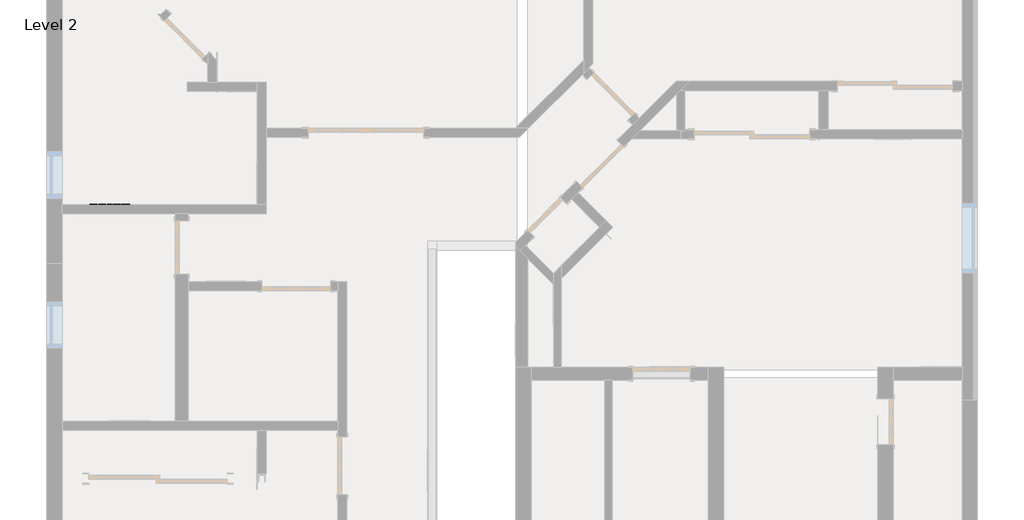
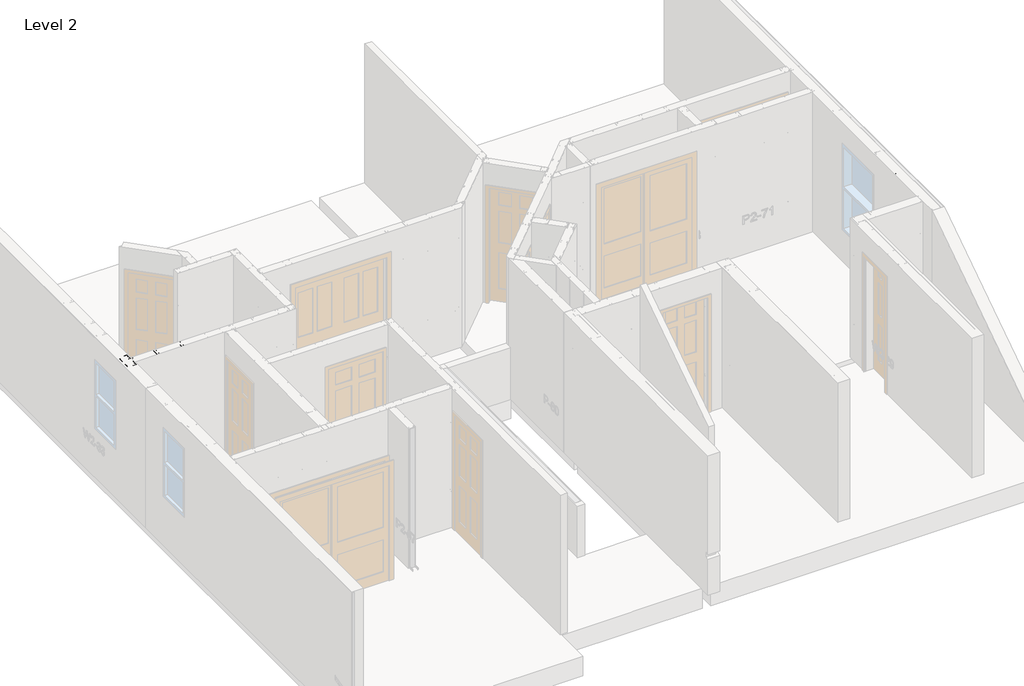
# One storey, part 24 of 46: 8 columns, 1 fastener.
"""IFC4 building model written with IfcOpenShell, lengths in millimetres."""

from ifc_helpers import new_model, si_unit, point, frame, origin, place, context, project, spatial, circle_curve, ellipse_curve, trimmed, transform, mapped, element, save
from ifc_brep_helpers import plane_surface, extruded_surface, advanced_brep
from components import column_550nf150_43_e978d052, panellabel_082cf68f

model = new_model("IFC4")

# Units and contexts
model_context = context("Model", 3, world=origin())
ifc_project = project(units=[si_unit("LENGTHUNIT", "METRE", prefix="MILLI")], contexts=[model_context])

# Site, building, storey
site = spatial("IfcSite", under=ifc_project)
building = spatial("IfcBuilding", under=site)
storey = spatial("IfcBuildingStorey", under=building, Name="Level 2", Elevation=3060.7)

# Columns
placement = place(None, origin())
element("IfcColumn", 1, ObjectType="BIMSF-SSMA-S-Column : 350NF150-33", at=placement, inside=storey, context=model_context, shape_type="AdvancedBrep", body=[
    advanced_brep(
    [(-15124.2413349, 8582.152221, 3061.5929687), (-15124.2413349, 8671.052221, 3061.5929687), (-15086.1413349, 8671.052221, 3061.5929687), (-15086.1413349, 8665.3947052, 3061.5929687), (-15087.0236507, 8665.3947052, 3061.5929687), (-15087.0236507, 8670.1699052, 3061.5929687), (-15123.3590191, 8670.1699052, 3061.5929687), (-15123.3590191, 8583.0345367, 3061.5929687), (-15087.0236507, 8583.0345367, 3061.5929687), (-15087.0236507, 8587.8097367, 3061.5929687), (-15086.1413349, 8587.8097367, 3061.5929687), (-15086.1413349, 8582.152221, 3061.5929687), (-15124.2413349, 8582.152221, 5523.6070313), (-15124.2413349, 8671.052221, 5523.6070313), (-15124.2413349, 8639.302221, 3671.1929688), (-15124.2413349, 8613.902221, 3671.1929688), (-15124.2413349, 8639.302221, 4890.3929687), (-15124.2413349, 8613.902221, 4890.3929687), (-15086.1413349, 8671.052221, 5523.6070313), (-15086.1413349, 8665.3947052, 5523.6070313), (-15087.0236507, 8665.3947052, 5523.6070313), (-15087.0236507, 8670.1699052, 5523.6070313), (-15123.3590191, 8670.1699052, 5523.6070313), (-15123.3590191, 8583.0345367, 5523.6070313), (-15123.3590191, 8613.902221, 3671.1929688), (-15123.3590191, 8639.302221, 3671.1929688), (-15123.3590191, 8613.902221, 4890.3929687), (-15123.3590191, 8639.302221, 4890.3929687), (-15087.0236507, 8583.0345367, 5523.6070313), (-15087.0236507, 8587.8097367, 5523.6070313), (-15086.1413349, 8587.8097367, 5523.6070313), (-15086.1413349, 8582.152221, 5523.6070313)],
    [
        (0, 1),
        (1, 2),
        (2, 3),
        (3, 4),
        (4, 5),
        (5, 6),
        (6, 7),
        (7, 8),
        (8, 9),
        (9, 10),
        (10, 11),
        (11, 0),
        (0, 12),
        (12, 13),
        (13, 1),
        (14, 15, circle_curve(frame((-15124.2413349, 8626.602221, 3671.1929687), z_axis=(1.0, 0.0, 0.0), x_axis=(0.0, 1.0, 0.0)), 12.7)),
        (15, 14, circle_curve(frame((-15124.2413349, 8626.602221, 3671.1929687), z_axis=(1.0, 0.0, 0.0), x_axis=(0.0, 1.0, 0.0)), 12.7)),
        (16, 17, circle_curve(frame((-15124.2413349, 8626.602221, 4890.3929687), z_axis=(1.0, 0.0, 0.0), x_axis=(0.0, 1.0, 0.0)), 12.7)),
        (17, 16, circle_curve(frame((-15124.2413349, 8626.602221, 4890.3929687), z_axis=(1.0, 0.0, 0.0), x_axis=(0.0, 1.0, 0.0)), 12.7)),
        (13, 18),
        (18, 2),
        (18, 19),
        (19, 3),
        (19, 20),
        (20, 4),
        (20, 21),
        (21, 5),
        (21, 22),
        (22, 6),
        (22, 23),
        (23, 7),
        (24, 25, circle_curve(frame((-15123.3590191, 8626.602221, 3671.1929688), z_axis=(-1.0, 0.0, 0.0), x_axis=(0.0, 1.0, 0.0)), 12.7)),
        (25, 24, circle_curve(frame((-15123.3590191, 8626.602221, 3671.1929688), z_axis=(-1.0, 0.0, 0.0), x_axis=(0.0, 1.0, 0.0)), 12.7)),
        (26, 27, circle_curve(frame((-15123.3590191, 8626.602221, 4890.3929687), z_axis=(-1.0, 0.0, 0.0), x_axis=(0.0, 1.0, 0.0)), 12.7)),
        (27, 26, circle_curve(frame((-15123.3590191, 8626.602221, 4890.3929687), z_axis=(-1.0, 0.0, 0.0), x_axis=(0.0, 1.0, 0.0)), 12.7)),
        (23, 28),
        (28, 8),
        (28, 29),
        (29, 9),
        (29, 30),
        (30, 10),
        (30, 31),
        (31, 11),
        (31, 12),
        (24, 15),
        (14, 25),
        (26, 17),
        (16, 27),
    ],
    [
        plane_surface(frame((-15124.2413349, 8582.152221, 3061.5929687), z_axis=(0.0, 0.0, -1.0), x_axis=(-1.0, 0.0, 0.0))),
        plane_surface(frame((-15124.2413349, 8671.052221, 5523.6070313), z_axis=(-1.0, 0.0, 0.0), x_axis=(0.0, 0.0, -1.0))),
        plane_surface(frame((-15086.1413349, 8671.052221, 5523.6070313), z_axis=(0.0, 1.0, 0.0), x_axis=(0.0, 0.0, -1.0))),
        plane_surface(frame((-15086.1413349, 8665.3947052, 5523.6070313), z_axis=(1.0, 0.0, 0.0), x_axis=(0.0, 0.0, -1.0))),
        plane_surface(frame((-15087.0236507, 8665.3947052, 5523.6070313), z_axis=(0.0, -1.0, 0.0), x_axis=(0.0, 0.0, -1.0))),
        plane_surface(frame((-15087.0236507, 8670.1699052, 5523.6070313), z_axis=(-1.0, 0.0, 0.0), x_axis=(0.0, 0.0, -1.0))),
        plane_surface(frame((-15123.3590191, 8670.1699052, 5523.6070313), z_axis=(0.0, -1.0, 0.0), x_axis=(0.0, 0.0, -1.0))),
        plane_surface(frame((-15123.3590191, 8583.0345367, 5523.6070313), z_axis=(1.0, 0.0, 0.0), x_axis=(0.0, 0.0, -1.0))),
        plane_surface(frame((-15087.0236507, 8583.0345367, 5523.6070313), z_axis=(0.0, 1.0, 0.0), x_axis=(0.0, 0.0, -1.0))),
        plane_surface(frame((-15087.0236507, 8587.8097367, 5523.6070313), z_axis=(-1.0, 0.0, 0.0), x_axis=(0.0, 0.0, -1.0))),
        plane_surface(frame((-15086.1413349, 8587.8097367, 5523.6070313), z_axis=(0.0, 1.0, 0.0), x_axis=(0.0, 0.0, -1.0))),
        plane_surface(frame((-15086.1413349, 8582.152221, 5523.6070313), z_axis=(1.0, 0.0, 0.0), x_axis=(0.0, 0.0, -1.0))),
        plane_surface(frame((-15124.2413349, 8582.152221, 5523.6070313), z_axis=(0.0, -1.0, 0.0), x_axis=(0.0, 0.0, -1.0))),
        plane_surface(frame((-15124.2413349, 8582.152221, 5523.6070313), z_axis=(0.0, 0.0, 1.0), x_axis=(1.0, 0.0, 0.0))),
        extruded_surface(trimmed(ellipse_curve(frame((-12643.1772724, 8626.602221, 3671.1929688), z_axis=(-1.0, 0.0, 0.0), x_axis=(0.0, 1.0, 0.0)), 12.7, 12.7), [point((-12643.1772724, 8613.902221, 3671.1929688))], [point((-12643.1772724, 8639.302221, 3671.1929688))], True, "CARTESIAN"), (4924.028125, 0.0, 0.0), 4924.028125),
        extruded_surface(trimmed(ellipse_curve(frame((-12643.1772724, 8626.602221, 3671.1929688), z_axis=(-1.0, 0.0, 0.0), x_axis=(0.0, 1.0, 0.0)), 12.7, 12.7), [point((-12643.1772724, 8639.302221, 3671.1929688))], [point((-12643.1772724, 8613.902221, 3671.1929688))], True, "CARTESIAN"), (4924.028125, 0.0, 0.0), 4924.028125),
        extruded_surface(trimmed(ellipse_curve(frame((-12643.1772724, 8626.602221, 4890.3929687), z_axis=(-1.0, 0.0, 0.0), x_axis=(0.0, 1.0, 0.0)), 12.7, 12.7), [point((-12643.1772724, 8613.902221, 4890.3929687))], [point((-12643.1772724, 8639.302221, 4890.3929687))], True, "CARTESIAN"), (4924.028125, 0.0, 0.0), 4924.028125),
        extruded_surface(trimmed(ellipse_curve(frame((-12643.1772724, 8626.602221, 4890.3929687), z_axis=(-1.0, 0.0, 0.0), x_axis=(0.0, 1.0, 0.0)), 12.7, 12.7), [point((-12643.1772724, 8639.302221, 4890.3929687))], [point((-12643.1772724, 8613.902221, 4890.3929687))], True, "CARTESIAN"), (4924.028125, 0.0, 0.0), 4924.028125),
    ],
    [
        (0, [[1, 2, 3, 4, 5, 6, 7, 8, 9, 10, 11, 12]]),
        (1, [[-1, 13, 14, 15], [16, 17], [18, 19]]),
        (2, [[-2, -15, 20, 21]]),
        (3, [[-3, -21, 22, 23]]),
        (4, [[-4, -23, 24, 25]]),
        (5, [[-5, -25, 26, 27]]),
        (6, [[-6, -27, 28, 29]]),
        (7, [[-7, -29, 30, 31], [32, 33], [34, 35]]),
        (8, [[-8, -31, 36, 37]]),
        (9, [[-9, -37, 38, 39]]),
        (10, [[-10, -39, 40, 41]]),
        (11, [[-11, -41, 42, 43]]),
        (12, [[-12, -43, 44, -13]]),
        (13, [[-14, -44, -42, -40, -38, -36, -30, -28, -26, -24, -22, -20]]),
        (14, [[45, -16, 46, -32]]),
        (15, [[-45, -33, -46, -17]]),
        (16, [[47, -18, 48, -34]]),
        (17, [[-47, -35, -48, -19]]),
    ],
),
])
element("IfcColumn", 2, ObjectType="BIMSF-SSMA-S-Column : 350NF150-33", at=placement, inside=storey, context=model_context, shape_type="AdvancedBrep", body=[
    advanced_brep(
    [(-14736.8913349, 8582.152221, 3061.5929687), (-14736.8913349, 8671.052221, 3061.5929687), (-14698.7913349, 8671.052221, 3061.5929687), (-14698.7913349, 8665.3947052, 3061.5929687), (-14699.6736507, 8665.3947052, 3061.5929687), (-14699.6736507, 8670.1699052, 3061.5929687), (-14736.0090191, 8670.1699052, 3061.5929687), (-14736.0090191, 8583.0345367, 3061.5929687), (-14699.6736507, 8583.0345367, 3061.5929687), (-14699.6736507, 8587.8097367, 3061.5929687), (-14698.7913349, 8587.8097367, 3061.5929687), (-14698.7913349, 8582.152221, 3061.5929687), (-14736.8913349, 8582.152221, 5523.6070313), (-14736.8913349, 8671.052221, 5523.6070313), (-14736.8913349, 8639.302221, 3671.1929688), (-14736.8913349, 8613.902221, 3671.1929688), (-14736.8913349, 8639.302221, 4890.3929687), (-14736.8913349, 8613.902221, 4890.3929687), (-14698.7913349, 8671.052221, 5523.6070313), (-14698.7913349, 8665.3947052, 5523.6070313), (-14699.6736507, 8665.3947052, 5523.6070313), (-14699.6736507, 8670.1699052, 5523.6070313), (-14736.0090191, 8670.1699052, 5523.6070313), (-14736.0090191, 8583.0345367, 5523.6070313), (-14736.0090191, 8613.902221, 3671.1929688), (-14736.0090191, 8639.302221, 3671.1929688), (-14736.0090191, 8613.902221, 4890.3929687), (-14736.0090191, 8639.302221, 4890.3929687), (-14699.6736507, 8583.0345367, 5523.6070313), (-14699.6736507, 8587.8097367, 5523.6070313), (-14698.7913349, 8587.8097367, 5523.6070313), (-14698.7913349, 8582.152221, 5523.6070313)],
    [
        (0, 1),
        (1, 2),
        (2, 3),
        (3, 4),
        (4, 5),
        (5, 6),
        (6, 7),
        (7, 8),
        (8, 9),
        (9, 10),
        (10, 11),
        (11, 0),
        (0, 12),
        (12, 13),
        (13, 1),
        (14, 15, circle_curve(frame((-14736.8913349, 8626.602221, 3671.1929688), z_axis=(1.0, 0.0, 0.0), x_axis=(0.0, 1.0, 0.0)), 12.7)),
        (15, 14, circle_curve(frame((-14736.8913349, 8626.602221, 3671.1929688), z_axis=(1.0, 0.0, 0.0), x_axis=(0.0, 1.0, 0.0)), 12.7)),
        (16, 17, circle_curve(frame((-14736.8913349, 8626.602221, 4890.3929687), z_axis=(1.0, 0.0, 0.0), x_axis=(0.0, 1.0, 0.0)), 12.7)),
        (17, 16, circle_curve(frame((-14736.8913349, 8626.602221, 4890.3929687), z_axis=(1.0, 0.0, 0.0), x_axis=(0.0, 1.0, 0.0)), 12.7)),
        (13, 18),
        (18, 2),
        (18, 19),
        (19, 3),
        (19, 20),
        (20, 4),
        (20, 21),
        (21, 5),
        (21, 22),
        (22, 6),
        (22, 23),
        (23, 7),
        (24, 25, circle_curve(frame((-14736.0090191, 8626.602221, 3671.1929688), z_axis=(-1.0, 0.0, 0.0), x_axis=(0.0, 1.0, 0.0)), 12.7)),
        (25, 24, circle_curve(frame((-14736.0090191, 8626.602221, 3671.1929688), z_axis=(-1.0, 0.0, 0.0), x_axis=(0.0, 1.0, 0.0)), 12.7)),
        (26, 27, circle_curve(frame((-14736.0090191, 8626.602221, 4890.3929687), z_axis=(-1.0, 0.0, 0.0), x_axis=(0.0, 1.0, 0.0)), 12.7)),
        (27, 26, circle_curve(frame((-14736.0090191, 8626.602221, 4890.3929687), z_axis=(-1.0, 0.0, 0.0), x_axis=(0.0, 1.0, 0.0)), 12.7)),
        (23, 28),
        (28, 8),
        (28, 29),
        (29, 9),
        (29, 30),
        (30, 10),
        (30, 31),
        (31, 11),
        (31, 12),
        (24, 15),
        (14, 25),
        (26, 17),
        (16, 27),
    ],
    [
        plane_surface(frame((-14736.8913349, 8582.152221, 3061.5929687), z_axis=(0.0, 0.0, -1.0), x_axis=(-1.0, 0.0, 0.0))),
        plane_surface(frame((-14736.8913349, 8671.052221, 5523.6070313), z_axis=(-1.0, 0.0, 0.0), x_axis=(0.0, 0.0, -1.0))),
        plane_surface(frame((-14698.7913349, 8671.052221, 5523.6070313), z_axis=(0.0, 1.0, 0.0), x_axis=(0.0, 0.0, -1.0))),
        plane_surface(frame((-14698.7913349, 8665.3947052, 5523.6070313), z_axis=(1.0, 0.0, 0.0), x_axis=(0.0, 0.0, -1.0))),
        plane_surface(frame((-14699.6736507, 8665.3947052, 5523.6070313), z_axis=(0.0, -1.0, 0.0), x_axis=(0.0, 0.0, -1.0))),
        plane_surface(frame((-14699.6736507, 8670.1699052, 5523.6070313), z_axis=(-1.0, 0.0, 0.0), x_axis=(0.0, 0.0, -1.0))),
        plane_surface(frame((-14736.0090191, 8670.1699052, 5523.6070313), z_axis=(0.0, -1.0, 0.0), x_axis=(0.0, 0.0, -1.0))),
        plane_surface(frame((-14736.0090191, 8583.0345367, 5523.6070313), z_axis=(1.0, 0.0, 0.0), x_axis=(0.0, 0.0, -1.0))),
        plane_surface(frame((-14699.6736507, 8583.0345367, 5523.6070313), z_axis=(0.0, 1.0, 0.0), x_axis=(0.0, 0.0, -1.0))),
        plane_surface(frame((-14699.6736507, 8587.8097367, 5523.6070313), z_axis=(-1.0, 0.0, 0.0), x_axis=(0.0, 0.0, -1.0))),
        plane_surface(frame((-14698.7913349, 8587.8097367, 5523.6070313), z_axis=(0.0, 1.0, 0.0), x_axis=(0.0, 0.0, -1.0))),
        plane_surface(frame((-14698.7913349, 8582.152221, 5523.6070313), z_axis=(1.0, 0.0, 0.0), x_axis=(0.0, 0.0, -1.0))),
        plane_surface(frame((-14736.8913349, 8582.152221, 5523.6070313), z_axis=(0.0, -1.0, 0.0), x_axis=(0.0, 0.0, -1.0))),
        plane_surface(frame((-14736.8913349, 8582.152221, 5523.6070313), z_axis=(0.0, 0.0, 1.0), x_axis=(1.0, 0.0, 0.0))),
        extruded_surface(trimmed(ellipse_curve(frame((-12255.8272724, 8626.602221, 3671.1929688), z_axis=(-1.0, 0.0, 0.0), x_axis=(0.0, 1.0, 0.0)), 12.7, 12.7), [point((-12255.8272724, 8613.902221, 3671.1929688))], [point((-12255.8272724, 8639.302221, 3671.1929688))], True, "CARTESIAN"), (4924.028125, 0.0, 0.0), 4924.028125),
        extruded_surface(trimmed(ellipse_curve(frame((-12255.8272724, 8626.602221, 3671.1929688), z_axis=(-1.0, 0.0, 0.0), x_axis=(0.0, 1.0, 0.0)), 12.7, 12.7), [point((-12255.8272724, 8639.302221, 3671.1929688))], [point((-12255.8272724, 8613.902221, 3671.1929688))], True, "CARTESIAN"), (4924.028125, 0.0, 0.0), 4924.028125),
        extruded_surface(trimmed(ellipse_curve(frame((-12255.8272724, 8626.602221, 4890.3929687), z_axis=(-1.0, 0.0, 0.0), x_axis=(0.0, 1.0, 0.0)), 12.7, 12.7), [point((-12255.8272724, 8613.902221, 4890.3929687))], [point((-12255.8272724, 8639.302221, 4890.3929687))], True, "CARTESIAN"), (4924.028125, 0.0, 0.0), 4924.028125),
        extruded_surface(trimmed(ellipse_curve(frame((-12255.8272724, 8626.602221, 4890.3929687), z_axis=(-1.0, 0.0, 0.0), x_axis=(0.0, 1.0, 0.0)), 12.7, 12.7), [point((-12255.8272724, 8639.302221, 4890.3929687))], [point((-12255.8272724, 8613.902221, 4890.3929687))], True, "CARTESIAN"), (4924.028125, 0.0, 0.0), 4924.028125),
    ],
    [
        (0, [[1, 2, 3, 4, 5, 6, 7, 8, 9, 10, 11, 12]]),
        (1, [[-1, 13, 14, 15], [16, 17], [18, 19]]),
        (2, [[-2, -15, 20, 21]]),
        (3, [[-3, -21, 22, 23]]),
        (4, [[-4, -23, 24, 25]]),
        (5, [[-5, -25, 26, 27]]),
        (6, [[-6, -27, 28, 29]]),
        (7, [[-7, -29, 30, 31], [32, 33], [34, 35]]),
        (8, [[-8, -31, 36, 37]]),
        (9, [[-9, -37, 38, 39]]),
        (10, [[-10, -39, 40, 41]]),
        (11, [[-11, -41, 42, 43]]),
        (12, [[-12, -43, 44, -13]]),
        (13, [[-14, -44, -42, -40, -38, -36, -30, -28, -26, -24, -22, -20]]),
        (14, [[45, -16, 46, -32]]),
        (15, [[-45, -33, -46, -17]]),
        (16, [[47, -18, 48, -34]]),
        (17, [[-47, -35, -48, -19]]),
    ],
),
])
element("IfcColumn", 3, ObjectType="BIMSF-SSMA-S-Column : 350NF150-33", at=placement, inside=storey, context=model_context, shape_type="AdvancedBrep", body=[
    advanced_brep(
    [(-14330.4913349, 8582.152221, 3061.5929687), (-14330.4913349, 8671.052221, 3061.5929687), (-14292.3913349, 8671.052221, 3061.5929687), (-14292.3913349, 8665.3947052, 3061.5929687), (-14293.2736507, 8665.3947052, 3061.5929687), (-14293.2736507, 8670.1699052, 3061.5929687), (-14329.6090191, 8670.1699052, 3061.5929687), (-14329.6090191, 8583.0345367, 3061.5929687), (-14293.2736507, 8583.0345367, 3061.5929687), (-14293.2736507, 8587.8097367, 3061.5929687), (-14292.3913349, 8587.8097367, 3061.5929687), (-14292.3913349, 8582.152221, 3061.5929687), (-14330.4913349, 8582.152221, 5523.6070313), (-14330.4913349, 8671.052221, 5523.6070313), (-14330.4913349, 8639.302221, 3671.1929688), (-14330.4913349, 8613.902221, 3671.1929688), (-14330.4913349, 8639.302221, 4890.3929687), (-14330.4913349, 8613.902221, 4890.3929687), (-14292.3913349, 8671.052221, 5523.6070313), (-14292.3913349, 8665.3947052, 5523.6070313), (-14293.2736507, 8665.3947052, 5523.6070313), (-14293.2736507, 8670.1699052, 5523.6070313), (-14329.6090191, 8670.1699052, 5523.6070313), (-14329.6090191, 8583.0345367, 5523.6070313), (-14329.6090191, 8613.902221, 3671.1929688), (-14329.6090191, 8639.302221, 3671.1929688), (-14329.6090191, 8613.902221, 4890.3929687), (-14329.6090191, 8639.302221, 4890.3929687), (-14293.2736507, 8583.0345367, 5523.6070313), (-14293.2736507, 8587.8097367, 5523.6070313), (-14292.3913349, 8587.8097367, 5523.6070313), (-14292.3913349, 8582.152221, 5523.6070313)],
    [
        (0, 1),
        (1, 2),
        (2, 3),
        (3, 4),
        (4, 5),
        (5, 6),
        (6, 7),
        (7, 8),
        (8, 9),
        (9, 10),
        (10, 11),
        (11, 0),
        (0, 12),
        (12, 13),
        (13, 1),
        (14, 15, circle_curve(frame((-14330.4913349, 8626.602221, 3671.1929688), z_axis=(1.0, 0.0, 0.0), x_axis=(0.0, 1.0, 0.0)), 12.7)),
        (15, 14, circle_curve(frame((-14330.4913349, 8626.602221, 3671.1929688), z_axis=(1.0, 0.0, 0.0), x_axis=(0.0, 1.0, 0.0)), 12.7)),
        (16, 17, circle_curve(frame((-14330.4913349, 8626.602221, 4890.3929687), z_axis=(1.0, 0.0, 0.0), x_axis=(0.0, 1.0, 0.0)), 12.7)),
        (17, 16, circle_curve(frame((-14330.4913349, 8626.602221, 4890.3929687), z_axis=(1.0, 0.0, 0.0), x_axis=(0.0, 1.0, 0.0)), 12.7)),
        (13, 18),
        (18, 2),
        (18, 19),
        (19, 3),
        (19, 20),
        (20, 4),
        (20, 21),
        (21, 5),
        (21, 22),
        (22, 6),
        (22, 23),
        (23, 7),
        (24, 25, circle_curve(frame((-14329.6090191, 8626.602221, 3671.1929688), z_axis=(-1.0, 0.0, 0.0), x_axis=(0.0, 1.0, 0.0)), 12.7)),
        (25, 24, circle_curve(frame((-14329.6090191, 8626.602221, 3671.1929688), z_axis=(-1.0, 0.0, 0.0), x_axis=(0.0, 1.0, 0.0)), 12.7)),
        (26, 27, circle_curve(frame((-14329.6090191, 8626.602221, 4890.3929687), z_axis=(-1.0, 0.0, 0.0), x_axis=(0.0, 1.0, 0.0)), 12.7)),
        (27, 26, circle_curve(frame((-14329.6090191, 8626.602221, 4890.3929687), z_axis=(-1.0, 0.0, 0.0), x_axis=(0.0, 1.0, 0.0)), 12.7)),
        (23, 28),
        (28, 8),
        (28, 29),
        (29, 9),
        (29, 30),
        (30, 10),
        (30, 31),
        (31, 11),
        (31, 12),
        (24, 15),
        (14, 25),
        (26, 17),
        (16, 27),
    ],
    [
        plane_surface(frame((-14330.4913349, 8582.152221, 3061.5929687), z_axis=(0.0, 0.0, -1.0), x_axis=(-1.0, 0.0, 0.0))),
        plane_surface(frame((-14330.4913349, 8671.052221, 5523.6070313), z_axis=(-1.0, 0.0, 0.0), x_axis=(0.0, 0.0, -1.0))),
        plane_surface(frame((-14292.3913349, 8671.052221, 5523.6070313), z_axis=(0.0, 1.0, 0.0), x_axis=(0.0, 0.0, -1.0))),
        plane_surface(frame((-14292.3913349, 8665.3947052, 5523.6070313), z_axis=(1.0, 0.0, 0.0), x_axis=(0.0, 0.0, -1.0))),
        plane_surface(frame((-14293.2736507, 8665.3947052, 5523.6070313), z_axis=(0.0, -1.0, 0.0), x_axis=(0.0, 0.0, -1.0))),
        plane_surface(frame((-14293.2736507, 8670.1699052, 5523.6070313), z_axis=(-1.0, 0.0, 0.0), x_axis=(0.0, 0.0, -1.0))),
        plane_surface(frame((-14329.6090191, 8670.1699052, 5523.6070313), z_axis=(0.0, -1.0, 0.0), x_axis=(0.0, 0.0, -1.0))),
        plane_surface(frame((-14329.6090191, 8583.0345367, 5523.6070313), z_axis=(1.0, 0.0, 0.0), x_axis=(0.0, 0.0, -1.0))),
        plane_surface(frame((-14293.2736507, 8583.0345367, 5523.6070313), z_axis=(0.0, 1.0, 0.0), x_axis=(0.0, 0.0, -1.0))),
        plane_surface(frame((-14293.2736507, 8587.8097367, 5523.6070313), z_axis=(-1.0, 0.0, 0.0), x_axis=(0.0, 0.0, -1.0))),
        plane_surface(frame((-14292.3913349, 8587.8097367, 5523.6070313), z_axis=(0.0, 1.0, 0.0), x_axis=(0.0, 0.0, -1.0))),
        plane_surface(frame((-14292.3913349, 8582.152221, 5523.6070313), z_axis=(1.0, 0.0, 0.0), x_axis=(0.0, 0.0, -1.0))),
        plane_surface(frame((-14330.4913349, 8582.152221, 5523.6070313), z_axis=(0.0, -1.0, 0.0), x_axis=(0.0, 0.0, -1.0))),
        plane_surface(frame((-14330.4913349, 8582.152221, 5523.6070313), z_axis=(0.0, 0.0, 1.0), x_axis=(1.0, 0.0, 0.0))),
        extruded_surface(trimmed(ellipse_curve(frame((-11849.4272724, 8626.602221, 3671.1929688), z_axis=(-1.0, 0.0, 0.0), x_axis=(0.0, 1.0, 0.0)), 12.7, 12.7), [point((-11849.4272724, 8613.902221, 3671.1929688))], [point((-11849.4272724, 8639.302221, 3671.1929688))], True, "CARTESIAN"), (4924.028125, 0.0, 0.0), 4924.028125),
        extruded_surface(trimmed(ellipse_curve(frame((-11849.4272724, 8626.602221, 3671.1929688), z_axis=(-1.0, 0.0, 0.0), x_axis=(0.0, 1.0, 0.0)), 12.7, 12.7), [point((-11849.4272724, 8639.302221, 3671.1929688))], [point((-11849.4272724, 8613.902221, 3671.1929688))], True, "CARTESIAN"), (4924.028125, 0.0, 0.0), 4924.028125),
        extruded_surface(trimmed(ellipse_curve(frame((-11849.4272724, 8626.602221, 4890.3929687), z_axis=(-1.0, 0.0, 0.0), x_axis=(0.0, 1.0, 0.0)), 12.7, 12.7), [point((-11849.4272724, 8613.902221, 4890.3929687))], [point((-11849.4272724, 8639.302221, 4890.3929687))], True, "CARTESIAN"), (4924.028125, 0.0, 0.0), 4924.028125),
        extruded_surface(trimmed(ellipse_curve(frame((-11849.4272724, 8626.602221, 4890.3929687), z_axis=(-1.0, 0.0, 0.0), x_axis=(0.0, 1.0, 0.0)), 12.7, 12.7), [point((-11849.4272724, 8639.302221, 4890.3929687))], [point((-11849.4272724, 8613.902221, 4890.3929687))], True, "CARTESIAN"), (4924.028125, 0.0, 0.0), 4924.028125),
    ],
    [
        (0, [[1, 2, 3, 4, 5, 6, 7, 8, 9, 10, 11, 12]]),
        (1, [[-1, 13, 14, 15], [16, 17], [18, 19]]),
        (2, [[-2, -15, 20, 21]]),
        (3, [[-3, -21, 22, 23]]),
        (4, [[-4, -23, 24, 25]]),
        (5, [[-5, -25, 26, 27]]),
        (6, [[-6, -27, 28, 29]]),
        (7, [[-7, -29, 30, 31], [32, 33], [34, 35]]),
        (8, [[-8, -31, 36, 37]]),
        (9, [[-9, -37, 38, 39]]),
        (10, [[-10, -39, 40, 41]]),
        (11, [[-11, -41, 42, 43]]),
        (12, [[-12, -43, 44, -13]]),
        (13, [[-14, -44, -42, -40, -38, -36, -30, -28, -26, -24, -22, -20]]),
        (14, [[45, -16, 46, -32]]),
        (15, [[-45, -33, -46, -17]]),
        (16, [[47, -18, 48, -34]]),
        (17, [[-47, -35, -48, -19]]),
    ],
),
])
element("IfcColumn", 4, ObjectType="BIMSF-SSMA-S-Column : 550NF150-43", at=placement, inside=storey, context=model_context, shape_type="AdvancedBrep", body=[
    advanced_brep(
    [(-3071.9413349, 7140.702221, 3061.5929687), (-3211.6413349, 7140.702221, 3061.5929687), (-3211.6413349, 7178.802221, 3061.5929687), (-3205.7164507, 7178.802221, 3061.5929687), (-3205.7164507, 7177.6525367, 3061.5929687), (-3210.4916507, 7177.6525367, 3061.5929687), (-3210.4916507, 7141.8519052, 3061.5929687), (-3073.0910191, 7141.8519052, 3061.5929687), (-3073.0910191, 7177.6525367, 3061.5929687), (-3077.8662191, 7177.6525367, 3061.5929687), (-3077.8662191, 7178.802221, 3061.5929687), (-3071.9413349, 7178.802221, 3061.5929687), (-3071.9413349, 7140.702221, 5523.6070313), (-3211.6413349, 7140.702221, 5523.6070313), (-3154.4913349, 7140.702221, 3671.1929687), (-3129.0913349, 7140.702221, 3671.1929687), (-3154.4913349, 7140.702221, 4890.3929687), (-3129.0913349, 7140.702221, 4890.3929687), (-3211.6413349, 7178.802221, 5523.6070313), (-3205.7164507, 7178.802221, 5523.6070313), (-3205.7164507, 7177.6525367, 5523.6070313), (-3210.4916507, 7177.6525367, 5523.6070313), (-3210.4916507, 7141.8519052, 5523.6070313), (-3073.0910191, 7141.8519052, 5523.6070313), (-3129.0913349, 7141.8519052, 3671.1929688), (-3154.4913349, 7141.8519052, 3671.1929688), (-3129.0913349, 7141.8519052, 4890.3929687), (-3154.4913349, 7141.8519052, 4890.3929687), (-3073.0910191, 7177.6525367, 5523.6070313), (-3077.8662191, 7177.6525367, 5523.6070313), (-3077.8662191, 7178.802221, 5523.6070313), (-3071.9413349, 7178.802221, 5523.6070313)],
    [
        (0, 1),
        (1, 2),
        (2, 3),
        (3, 4),
        (4, 5),
        (5, 6),
        (6, 7),
        (7, 8),
        (8, 9),
        (9, 10),
        (10, 11),
        (11, 0),
        (0, 12),
        (12, 13),
        (13, 1),
        (14, 15, circle_curve(frame((-3141.7913349, 7140.702221, 3671.1929688), z_axis=(0.0, 1.0, 0.0), x_axis=(-1.0, 0.0, 0.0)), 12.7)),
        (15, 14, circle_curve(frame((-3141.7913349, 7140.702221, 3671.1929688), z_axis=(0.0, 1.0, 0.0), x_axis=(-1.0, 0.0, 0.0)), 12.7)),
        (16, 17, circle_curve(frame((-3141.7913349, 7140.702221, 4890.3929687), z_axis=(0.0, 1.0, 0.0), x_axis=(-1.0, 0.0, 0.0)), 12.7)),
        (17, 16, circle_curve(frame((-3141.7913349, 7140.702221, 4890.3929687), z_axis=(0.0, 1.0, 0.0), x_axis=(-1.0, 0.0, 0.0)), 12.7)),
        (13, 18),
        (18, 2),
        (18, 19),
        (19, 3),
        (19, 20),
        (20, 4),
        (20, 21),
        (21, 5),
        (21, 22),
        (22, 6),
        (22, 23),
        (23, 7),
        (24, 25, circle_curve(frame((-3141.7913349, 7141.8519052, 3671.1929688), z_axis=(0.0, -1.0, 0.0), x_axis=(-1.0, 0.0, 0.0)), 12.7)),
        (25, 24, circle_curve(frame((-3141.7913349, 7141.8519052, 3671.1929688), z_axis=(0.0, -1.0, 0.0), x_axis=(-1.0, 0.0, 0.0)), 12.7)),
        (26, 27, circle_curve(frame((-3141.7913349, 7141.8519052, 4890.3929687), z_axis=(0.0, -1.0, 0.0), x_axis=(-1.0, 0.0, 0.0)), 12.7)),
        (27, 26, circle_curve(frame((-3141.7913349, 7141.8519052, 4890.3929687), z_axis=(0.0, -1.0, 0.0), x_axis=(-1.0, 0.0, 0.0)), 12.7)),
        (23, 28),
        (28, 8),
        (28, 29),
        (29, 9),
        (29, 30),
        (30, 10),
        (30, 31),
        (31, 11),
        (31, 12),
        (24, 15),
        (14, 25),
        (26, 17),
        (16, 27),
    ],
    [
        plane_surface(frame((-3071.9413349, 7140.702221, 3061.5929687), z_axis=(0.0, 0.0, -1.0), x_axis=(0.0, -1.0, 0.0))),
        plane_surface(frame((-3211.6413349, 7140.702221, 5523.6070313), z_axis=(0.0, -1.0, 0.0), x_axis=(0.0, 0.0, -1.0))),
        plane_surface(frame((-3211.6413349, 7178.802221, 5523.6070313), z_axis=(-1.0, 0.0, 0.0), x_axis=(0.0, 0.0, -1.0))),
        plane_surface(frame((-3205.7164507, 7178.802221, 5523.6070313), z_axis=(0.0, 1.0, 0.0), x_axis=(0.0, 0.0, -1.0))),
        plane_surface(frame((-3205.7164507, 7177.6525367, 5523.6070313), z_axis=(1.0, 0.0, 0.0), x_axis=(0.0, 0.0, -1.0))),
        plane_surface(frame((-3210.4916507, 7177.6525367, 5523.6070313), z_axis=(0.0, -1.0, 0.0), x_axis=(0.0, 0.0, -1.0))),
        plane_surface(frame((-3210.4916507, 7141.8519052, 5523.6070313), z_axis=(1.0, 0.0, 0.0), x_axis=(0.0, 0.0, -1.0))),
        plane_surface(frame((-3073.0910191, 7141.8519052, 5523.6070313), z_axis=(0.0, 1.0, 0.0), x_axis=(0.0, 0.0, -1.0))),
        plane_surface(frame((-3073.0910191, 7177.6525367, 5523.6070313), z_axis=(-1.0, 0.0, 0.0), x_axis=(0.0, 0.0, -1.0))),
        plane_surface(frame((-3077.8662191, 7177.6525367, 5523.6070313), z_axis=(0.0, -1.0, 0.0), x_axis=(0.0, 0.0, -1.0))),
        plane_surface(frame((-3077.8662191, 7178.802221, 5523.6070313), z_axis=(-1.0, 0.0, 0.0), x_axis=(0.0, 0.0, -1.0))),
        plane_surface(frame((-3071.9413349, 7178.802221, 5523.6070313), z_axis=(0.0, 1.0, 0.0), x_axis=(0.0, 0.0, -1.0))),
        plane_surface(frame((-3071.9413349, 7140.702221, 5523.6070313), z_axis=(1.0, 0.0, 0.0), x_axis=(0.0, 0.0, -1.0))),
        plane_surface(frame((-3071.9413349, 7140.702221, 5523.6070313), z_axis=(0.0, 0.0, 1.0), x_axis=(0.0, 1.0, 0.0))),
        extruded_surface(trimmed(ellipse_curve(frame((-3141.7913349, 9621.7662835, 3671.1929688), z_axis=(0.0, -1.0, 0.0), x_axis=(-1.0, 0.0, 0.0)), 12.7, 12.7), [point((-3129.0913349, 9621.7662835, 3671.1929688))], [point((-3154.4913349, 9621.7662835, 3671.1929688))], True, "CARTESIAN"), (0.0, 4924.028125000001, 0.0), 4924.028125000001),
        extruded_surface(trimmed(ellipse_curve(frame((-3141.7913349, 9621.7662835, 3671.1929688), z_axis=(0.0, -1.0, 0.0), x_axis=(-1.0, 0.0, 0.0)), 12.7, 12.7), [point((-3154.4913349, 9621.7662835, 3671.1929688))], [point((-3129.0913349, 9621.7662835, 3671.1929688))], True, "CARTESIAN"), (0.0, 4924.028125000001, 0.0), 4924.028125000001),
        extruded_surface(trimmed(ellipse_curve(frame((-3141.7913349, 9621.7662835, 4890.3929687), z_axis=(0.0, -1.0, 0.0), x_axis=(-1.0, 0.0, 0.0)), 12.7, 12.7), [point((-3129.0913349, 9621.7662835, 4890.3929687))], [point((-3154.4913349, 9621.7662835, 4890.3929687))], True, "CARTESIAN"), (0.0, 4924.028125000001, 0.0), 4924.028125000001),
        extruded_surface(trimmed(ellipse_curve(frame((-3141.7913349, 9621.7662835, 4890.3929687), z_axis=(0.0, -1.0, 0.0), x_axis=(-1.0, 0.0, 0.0)), 12.7, 12.7), [point((-3154.4913349, 9621.7662835, 4890.3929687))], [point((-3129.0913349, 9621.7662835, 4890.3929687))], True, "CARTESIAN"), (0.0, 4924.028125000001, 0.0), 4924.028125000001),
    ],
    [
        (0, [[1, 2, 3, 4, 5, 6, 7, 8, 9, 10, 11, 12]]),
        (1, [[-1, 13, 14, 15], [16, 17], [18, 19]]),
        (2, [[-2, -15, 20, 21]]),
        (3, [[-3, -21, 22, 23]]),
        (4, [[-4, -23, 24, 25]]),
        (5, [[-5, -25, 26, 27]]),
        (6, [[-6, -27, 28, 29]]),
        (7, [[-7, -29, 30, 31], [32, 33], [34, 35]]),
        (8, [[-8, -31, 36, 37]]),
        (9, [[-9, -37, 38, 39]]),
        (10, [[-10, -39, 40, 41]]),
        (11, [[-11, -41, 42, 43]]),
        (12, [[-12, -43, 44, -13]]),
        (13, [[-14, -44, -42, -40, -38, -36, -30, -28, -26, -24, -22, -20]]),
        (14, [[45, -16, 46, -32]]),
        (15, [[-45, -33, -46, -17]]),
        (16, [[47, -18, 48, -34]]),
        (17, [[-47, -35, -48, -19]]),
    ],
),
])
element("IfcColumn", 5, ObjectType="BIMSF-SSMA-S-Column : 550NF150-43", at=placement, inside=storey, context=model_context, shape_type="AdvancedBrep", body=[
    advanced_brep(
    [(-15263.9413349, 8772.8062273, 3061.5929687), (-15124.2413349, 8772.8062273, 3061.5929687), (-15124.2413349, 8734.7062273, 3061.5929687), (-15130.1662191, 8734.7062273, 3061.5929687), (-15130.1662191, 8735.8559115, 3061.5929687), (-15125.3910191, 8735.8559115, 3061.5929687), (-15125.3910191, 8771.6565431, 3061.5929687), (-15262.7916507, 8771.6565431, 3061.5929687), (-15262.7916507, 8735.8559115, 3061.5929687), (-15258.0164507, 8735.8559115, 3061.5929687), (-15258.0164507, 8734.7062273, 3061.5929687), (-15263.9413349, 8734.7062273, 3061.5929687), (-15263.9413349, 8772.8062273, 5523.6070313), (-15124.2413349, 8772.8062273, 5523.6070313), (-15181.3913349, 8772.8062273, 3671.1929688), (-15206.7913349, 8772.8062273, 3671.1929688), (-15181.3913349, 8772.8062273, 4890.3929687), (-15206.7913349, 8772.8062273, 4890.3929687), (-15124.2413349, 8734.7062273, 5523.6070313), (-15130.1662191, 8734.7062273, 5523.6070313), (-15130.1662191, 8735.8559115, 5523.6070313), (-15125.3910191, 8735.8559115, 5523.6070313), (-15125.3910191, 8771.6565431, 5523.6070313), (-15262.7916507, 8771.6565431, 5523.6070313), (-15206.7913349, 8771.6565431, 3671.1929688), (-15181.3913349, 8771.6565431, 3671.1929688), (-15206.7913349, 8771.6565431, 4890.3929687), (-15181.3913349, 8771.6565431, 4890.3929687), (-15262.7916507, 8735.8559115, 5523.6070313), (-15258.0164507, 8735.8559115, 5523.6070313), (-15258.0164507, 8734.7062273, 5523.6070313), (-15263.9413349, 8734.7062273, 5523.6070313)],
    [
        (0, 1),
        (1, 2),
        (2, 3),
        (3, 4),
        (4, 5),
        (5, 6),
        (6, 7),
        (7, 8),
        (8, 9),
        (9, 10),
        (10, 11),
        (11, 0),
        (0, 12),
        (12, 13),
        (13, 1),
        (14, 15, circle_curve(frame((-15194.0913349, 8772.8062273, 3671.1929687), z_axis=(0.0, -1.0, 0.0), x_axis=(1.0, 0.0, 0.0)), 12.7)),
        (15, 14, circle_curve(frame((-15194.0913349, 8772.8062273, 3671.1929687), z_axis=(0.0, -1.0, 0.0), x_axis=(1.0, 0.0, 0.0)), 12.7)),
        (16, 17, circle_curve(frame((-15194.0913349, 8772.8062273, 4890.3929687), z_axis=(0.0, -1.0, 0.0), x_axis=(1.0, 0.0, 0.0)), 12.7)),
        (17, 16, circle_curve(frame((-15194.0913349, 8772.8062273, 4890.3929687), z_axis=(0.0, -1.0, 0.0), x_axis=(1.0, 0.0, 0.0)), 12.7)),
        (13, 18),
        (18, 2),
        (18, 19),
        (19, 3),
        (19, 20),
        (20, 4),
        (20, 21),
        (21, 5),
        (21, 22),
        (22, 6),
        (22, 23),
        (23, 7),
        (24, 25, circle_curve(frame((-15194.0913349, 8771.6565431, 3671.1929687), z_axis=(0.0, 1.0, 0.0), x_axis=(1.0, 0.0, 0.0)), 12.7)),
        (25, 24, circle_curve(frame((-15194.0913349, 8771.6565431, 3671.1929687), z_axis=(0.0, 1.0, 0.0), x_axis=(1.0, 0.0, 0.0)), 12.7)),
        (26, 27, circle_curve(frame((-15194.0913349, 8771.6565431, 4890.3929687), z_axis=(0.0, 1.0, 0.0), x_axis=(1.0, 0.0, 0.0)), 12.7)),
        (27, 26, circle_curve(frame((-15194.0913349, 8771.6565431, 4890.3929687), z_axis=(0.0, 1.0, 0.0), x_axis=(1.0, 0.0, 0.0)), 12.7)),
        (23, 28),
        (28, 8),
        (28, 29),
        (29, 9),
        (29, 30),
        (30, 10),
        (30, 31),
        (31, 11),
        (31, 12),
        (24, 15),
        (14, 25),
        (26, 17),
        (16, 27),
    ],
    [
        plane_surface(frame((-15263.9413349, 8772.8062273, 3061.5929687), z_axis=(0.0, 0.0, -1.0), x_axis=(0.0, 1.0, 0.0))),
        plane_surface(frame((-15124.2413349, 8772.8062273, 5523.6070313), z_axis=(0.0, 1.0, 0.0), x_axis=(0.0, 0.0, -1.0))),
        plane_surface(frame((-15124.2413349, 8734.7062273, 5523.6070313), z_axis=(1.0, 0.0, 0.0), x_axis=(0.0, 0.0, -1.0))),
        plane_surface(frame((-15130.1662191, 8734.7062273, 5523.6070313), z_axis=(0.0, -1.0, 0.0), x_axis=(0.0, 0.0, -1.0))),
        plane_surface(frame((-15130.1662191, 8735.8559115, 5523.6070313), z_axis=(-1.0, 0.0, 0.0), x_axis=(0.0, 0.0, -1.0))),
        plane_surface(frame((-15125.3910191, 8735.8559115, 5523.6070313), z_axis=(0.0, 1.0, 0.0), x_axis=(0.0, 0.0, -1.0))),
        plane_surface(frame((-15125.3910191, 8771.6565431, 5523.6070313), z_axis=(-1.0, 0.0, 0.0), x_axis=(0.0, 0.0, -1.0))),
        plane_surface(frame((-15262.7916507, 8771.6565431, 5523.6070313), z_axis=(0.0, -1.0, 0.0), x_axis=(0.0, 0.0, -1.0))),
        plane_surface(frame((-15262.7916507, 8735.8559115, 5523.6070313), z_axis=(1.0, 0.0, 0.0), x_axis=(0.0, 0.0, -1.0))),
        plane_surface(frame((-15258.0164507, 8735.8559115, 5523.6070313), z_axis=(0.0, 1.0, 0.0), x_axis=(0.0, 0.0, -1.0))),
        plane_surface(frame((-15258.0164507, 8734.7062273, 5523.6070313), z_axis=(1.0, 0.0, 0.0), x_axis=(0.0, 0.0, -1.0))),
        plane_surface(frame((-15263.9413349, 8734.7062273, 5523.6070313), z_axis=(0.0, -1.0, 0.0), x_axis=(0.0, 0.0, -1.0))),
        plane_surface(frame((-15263.9413349, 8772.8062273, 5523.6070313), z_axis=(-1.0, 0.0, 0.0), x_axis=(0.0, 0.0, -1.0))),
        plane_surface(frame((-15263.9413349, 8772.8062273, 5523.6070313), z_axis=(0.0, 0.0, 1.0), x_axis=(0.0, -1.0, 0.0))),
        extruded_surface(trimmed(ellipse_curve(frame((-15194.0913349, 6291.7421648, 3671.1929688), z_axis=(0.0, 1.0, 0.0), x_axis=(1.0, 0.0, 0.0)), 12.7, 12.7), [point((-15206.7913349, 6291.7421648, 3671.1929688))], [point((-15181.3913349, 6291.7421648, 3671.1929688))], True, "CARTESIAN"), (0.0, -4924.028125, 0.0), 4924.028125),
        extruded_surface(trimmed(ellipse_curve(frame((-15194.0913349, 6291.7421648, 3671.1929688), z_axis=(0.0, 1.0, 0.0), x_axis=(1.0, 0.0, 0.0)), 12.7, 12.7), [point((-15181.3913349, 6291.7421648, 3671.1929688))], [point((-15206.7913349, 6291.7421648, 3671.1929688))], True, "CARTESIAN"), (0.0, -4924.028125, 0.0), 4924.028125),
        extruded_surface(trimmed(ellipse_curve(frame((-15194.0913349, 6291.7421648, 4890.3929687), z_axis=(0.0, 1.0, 0.0), x_axis=(1.0, 0.0, 0.0)), 12.7, 12.7), [point((-15206.7913349, 6291.7421648, 4890.3929687))], [point((-15181.3913349, 6291.7421648, 4890.3929687))], True, "CARTESIAN"), (0.0, -4924.028125, 0.0), 4924.028125),
        extruded_surface(trimmed(ellipse_curve(frame((-15194.0913349, 6291.7421648, 4890.3929687), z_axis=(0.0, 1.0, 0.0), x_axis=(1.0, 0.0, 0.0)), 12.7, 12.7), [point((-15181.3913349, 6291.7421648, 4890.3929687))], [point((-15206.7913349, 6291.7421648, 4890.3929687))], True, "CARTESIAN"), (0.0, -4924.028125, 0.0), 4924.028125),
    ],
    [
        (0, [[1, 2, 3, 4, 5, 6, 7, 8, 9, 10, 11, 12]]),
        (1, [[-1, 13, 14, 15], [16, 17], [18, 19]]),
        (2, [[-2, -15, 20, 21]]),
        (3, [[-3, -21, 22, 23]]),
        (4, [[-4, -23, 24, 25]]),
        (5, [[-5, -25, 26, 27]]),
        (6, [[-6, -27, 28, 29]]),
        (7, [[-7, -29, 30, 31], [32, 33], [34, 35]]),
        (8, [[-8, -31, 36, 37]]),
        (9, [[-9, -37, 38, 39]]),
        (10, [[-10, -39, 40, 41]]),
        (11, [[-11, -41, 42, 43]]),
        (12, [[-12, -43, 44, -13]]),
        (13, [[-14, -44, -42, -40, -38, -36, -30, -28, -26, -24, -22, -20]]),
        (14, [[45, -16, 46, -32]]),
        (15, [[-45, -33, -46, -17]]),
        (16, [[47, -18, 48, -34]]),
        (17, [[-47, -35, -48, -19]]),
    ],
),
])
element("IfcColumn", 6, ObjectType="BIMSF-SSMA-S-Column : 550NF150-43", at=placement, inside=storey, context=model_context, shape_type="AdvancedBrep", body=[
    advanced_brep(
    [(-15124.2413349, 8498.2627774, 3061.5929687), (-15263.9413349, 8498.2627774, 3061.5929687), (-15263.9413349, 8536.3627774, 3061.5929687), (-15258.0164507, 8536.3627774, 3061.5929687), (-15258.0164507, 8535.2130931, 3061.5929687), (-15262.7916507, 8535.2130931, 3061.5929687), (-15262.7916507, 8499.4124616, 3061.5929687), (-15125.3910191, 8499.4124616, 3061.5929687), (-15125.3910191, 8535.2130931, 3061.5929687), (-15130.1662191, 8535.2130931, 3061.5929687), (-15130.1662191, 8536.3627774, 3061.5929687), (-15124.2413349, 8536.3627774, 3061.5929687), (-15124.2413349, 8498.2627774, 5523.6070313), (-15263.9413349, 8498.2627774, 5523.6070313), (-15206.7913349, 8498.2627774, 3671.1929688), (-15181.3913349, 8498.2627774, 3671.1929688), (-15206.7913349, 8498.2627774, 4890.3929688), (-15181.3913349, 8498.2627774, 4890.3929687), (-15263.9413349, 8536.3627774, 5523.6070313), (-15258.0164507, 8536.3627774, 5523.6070313), (-15258.0164507, 8535.2130931, 5523.6070313), (-15262.7916507, 8535.2130931, 5523.6070313), (-15262.7916507, 8499.4124616, 5523.6070313), (-15125.3910191, 8499.4124616, 5523.6070313), (-15181.3913349, 8499.4124616, 3671.1929688), (-15206.7913349, 8499.4124616, 3671.1929688), (-15181.3913349, 8499.4124616, 4890.3929688), (-15206.7913349, 8499.4124616, 4890.3929688), (-15125.3910191, 8535.2130931, 5523.6070313), (-15130.1662191, 8535.2130931, 5523.6070313), (-15130.1662191, 8536.3627774, 5523.6070313), (-15124.2413349, 8536.3627774, 5523.6070313)],
    [
        (0, 1),
        (1, 2),
        (2, 3),
        (3, 4),
        (4, 5),
        (5, 6),
        (6, 7),
        (7, 8),
        (8, 9),
        (9, 10),
        (10, 11),
        (11, 0),
        (0, 12),
        (12, 13),
        (13, 1),
        (14, 15, circle_curve(frame((-15194.0913349, 8498.2627774, 3671.1929688), z_axis=(0.0, 1.0, 0.0), x_axis=(-1.0, 0.0, 0.0)), 12.7)),
        (15, 14, circle_curve(frame((-15194.0913349, 8498.2627774, 3671.1929688), z_axis=(0.0, 1.0, 0.0), x_axis=(-1.0, 0.0, 0.0)), 12.7)),
        (16, 17, circle_curve(frame((-15194.0913349, 8498.2627774, 4890.3929687), z_axis=(0.0, 1.0, 0.0), x_axis=(-1.0, 0.0, 0.0)), 12.7)),
        (17, 16, circle_curve(frame((-15194.0913349, 8498.2627774, 4890.3929687), z_axis=(0.0, 1.0, 0.0), x_axis=(-1.0, 0.0, 0.0)), 12.7)),
        (13, 18),
        (18, 2),
        (18, 19),
        (19, 3),
        (19, 20),
        (20, 4),
        (20, 21),
        (21, 5),
        (21, 22),
        (22, 6),
        (22, 23),
        (23, 7),
        (24, 25, circle_curve(frame((-15194.0913349, 8499.4124616, 3671.1929688), z_axis=(0.0, -1.0, 0.0), x_axis=(-1.0, 0.0, 0.0)), 12.7)),
        (25, 24, circle_curve(frame((-15194.0913349, 8499.4124616, 3671.1929687), z_axis=(0.0, -1.0, 0.0), x_axis=(-1.0, 0.0, 0.0)), 12.7)),
        (26, 27, circle_curve(frame((-15194.0913349, 8499.4124616, 4890.3929687), z_axis=(0.0, -1.0, 0.0), x_axis=(-1.0, 0.0, 0.0)), 12.7)),
        (27, 26, circle_curve(frame((-15194.0913349, 8499.4124616, 4890.3929687), z_axis=(0.0, -1.0, 0.0), x_axis=(-1.0, 0.0, 0.0)), 12.7)),
        (23, 28),
        (28, 8),
        (28, 29),
        (29, 9),
        (29, 30),
        (30, 10),
        (30, 31),
        (31, 11),
        (31, 12),
        (24, 15),
        (14, 25),
        (26, 17),
        (16, 27),
    ],
    [
        plane_surface(frame((-15124.2413349, 8498.2627774, 3061.5929687), z_axis=(0.0, 0.0, -1.0), x_axis=(0.0, -1.0, 0.0))),
        plane_surface(frame((-15263.9413349, 8498.2627774, 5523.6070313), z_axis=(0.0, -1.0, 0.0), x_axis=(0.0, 0.0, -1.0))),
        plane_surface(frame((-15263.9413349, 8536.3627774, 5523.6070313), z_axis=(-1.0, 0.0, 0.0), x_axis=(0.0, 0.0, -1.0))),
        plane_surface(frame((-15258.0164507, 8536.3627774, 5523.6070313), z_axis=(0.0, 1.0, 0.0), x_axis=(0.0, 0.0, -1.0))),
        plane_surface(frame((-15258.0164507, 8535.2130931, 5523.6070313), z_axis=(1.0, 0.0, 0.0), x_axis=(0.0, 0.0, -1.0))),
        plane_surface(frame((-15262.7916507, 8535.2130931, 5523.6070313), z_axis=(0.0, -1.0, 0.0), x_axis=(0.0, 0.0, -1.0))),
        plane_surface(frame((-15262.7916507, 8499.4124616, 5523.6070313), z_axis=(1.0, 0.0, 0.0), x_axis=(0.0, 0.0, -1.0))),
        plane_surface(frame((-15125.3910191, 8499.4124616, 5523.6070313), z_axis=(0.0, 1.0, 0.0), x_axis=(0.0, 0.0, -1.0))),
        plane_surface(frame((-15125.3910191, 8535.2130931, 5523.6070313), z_axis=(-1.0, 0.0, 0.0), x_axis=(0.0, 0.0, -1.0))),
        plane_surface(frame((-15130.1662191, 8535.2130931, 5523.6070313), z_axis=(0.0, -1.0, 0.0), x_axis=(0.0, 0.0, -1.0))),
        plane_surface(frame((-15130.1662191, 8536.3627774, 5523.6070313), z_axis=(-1.0, 0.0, 0.0), x_axis=(0.0, 0.0, -1.0))),
        plane_surface(frame((-15124.2413349, 8536.3627774, 5523.6070313), z_axis=(0.0, 1.0, 0.0), x_axis=(0.0, 0.0, -1.0))),
        plane_surface(frame((-15124.2413349, 8498.2627774, 5523.6070313), z_axis=(1.0, 0.0, 0.0), x_axis=(0.0, 0.0, -1.0))),
        plane_surface(frame((-15124.2413349, 8498.2627774, 5523.6070313), z_axis=(0.0, 0.0, 1.0), x_axis=(0.0, 1.0, 0.0))),
        extruded_surface(trimmed(ellipse_curve(frame((-15194.0913349, 10979.3268399, 3671.1929688), z_axis=(0.0, -1.0, 0.0), x_axis=(-1.0, 0.0, 0.0)), 12.7, 12.7), [point((-15181.3913349, 10979.3268399, 3671.1929688))], [point((-15206.7913349, 10979.3268399, 3671.1929688))], True, "CARTESIAN"), (0.0, 4924.028124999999, 0.0), 4924.028124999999),
        extruded_surface(trimmed(ellipse_curve(frame((-15194.0913349, 10979.3268399, 3671.1929688), z_axis=(0.0, -1.0, 0.0), x_axis=(-1.0, 0.0, 0.0)), 12.7, 12.7), [point((-15206.7913349, 10979.3268399, 3671.1929688))], [point((-15181.3913349, 10979.3268399, 3671.1929688))], True, "CARTESIAN"), (0.0, 4924.028124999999, 0.0), 4924.028124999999),
        extruded_surface(trimmed(ellipse_curve(frame((-15194.0913349, 10979.3268399, 4890.3929687), z_axis=(0.0, -1.0, 0.0), x_axis=(-1.0, 0.0, 0.0)), 12.7, 12.7), [point((-15181.3913349, 10979.3268399, 4890.3929687))], [point((-15206.7913349, 10979.3268399, 4890.3929687))], True, "CARTESIAN"), (0.0, 4924.028124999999, 0.0), 4924.028124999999),
        extruded_surface(trimmed(ellipse_curve(frame((-15194.0913349, 10979.3268399, 4890.3929687), z_axis=(0.0, -1.0, 0.0), x_axis=(-1.0, 0.0, 0.0)), 12.7, 12.7), [point((-15206.7913349, 10979.3268399, 4890.3929687))], [point((-15181.3913349, 10979.3268399, 4890.3929687))], True, "CARTESIAN"), (0.0, 4924.028124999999, 0.0), 4924.028124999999),
    ],
    [
        (0, [[1, 2, 3, 4, 5, 6, 7, 8, 9, 10, 11, 12]]),
        (1, [[-1, 13, 14, 15], [16, 17], [18, 19]]),
        (2, [[-2, -15, 20, 21]]),
        (3, [[-3, -21, 22, 23]]),
        (4, [[-4, -23, 24, 25]]),
        (5, [[-5, -25, 26, 27]]),
        (6, [[-6, -27, 28, 29]]),
        (7, [[-7, -29, 30, 31], [32, 33], [34, 35]]),
        (8, [[-8, -31, 36, 37]]),
        (9, [[-9, -37, 38, 39]]),
        (10, [[-10, -39, 40, 41]]),
        (11, [[-11, -41, 42, 43]]),
        (12, [[-12, -43, 44, -13]]),
        (13, [[-14, -44, -42, -40, -38, -36, -30, -28, -26, -24, -22, -20]]),
        (14, [[45, -16, 46, -32]]),
        (15, [[-45, -33, -46, -17]]),
        (16, [[47, -18, 48, -34]]),
        (17, [[-47, -35, -48, -19]]),
    ],
),
])
column_550nf150_43_shape = column_550nf150_43_e978d052(model_context)
element("IfcColumn", 7, ObjectType="BIMSF-SSMA-S-Column : 550NF150-43", at=placement, inside=storey, context=model_context, shape_type="MappedRepresentation", body=[
    mapped(column_550nf150_43_shape, transform((-15183.3542099, 8570.1544332, 0.0), x_axis=(0.0, -1.0, 0.0), y_axis=(1.0, 0.0, 0.0), z_axis=(0.0, 0.0, 1.0))),
])
element("IfcColumn", 8, ObjectType="BIMSF-SSMA-S-Column : 550NF150-43", at=placement, inside=storey, context=model_context, shape_type="MappedRepresentation", body=[
    mapped(column_550nf150_43_shape, transform((-15204.8284598, 8683.0500087, 0.0), x_axis=(0.0, 1.0, 0.0), y_axis=(-1.0, 0.0, 0.0), z_axis=(0.0, 0.0, 1.0))),
])

# Fastener
panellabel_shape = panellabel_082cf68f(model_context)
element("IfcFastener", 9, ObjectType="PanelLabel : Miranda", at=placement, inside=storey, context=model_context, shape_type="MappedRepresentation", body=[
    mapped(panellabel_shape, transform((-14472.5725849, 8626.602221, 2289.7232245), x_axis=(1.0, 0.0, 0.0), y_axis=(0.0, 1.0, 0.0), z_axis=(0.0, 0.0, 1.0))),
])

save(model, "model.ifc")
